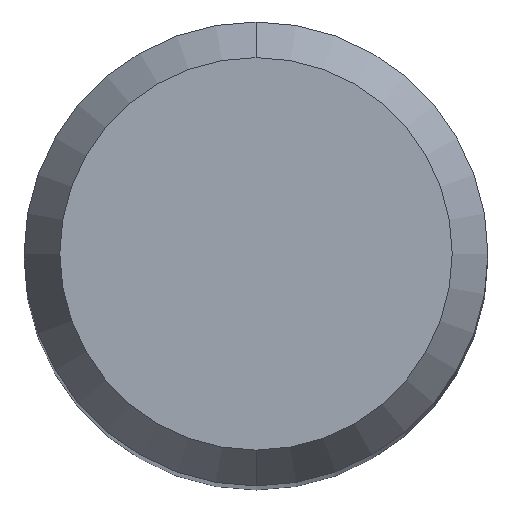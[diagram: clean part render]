
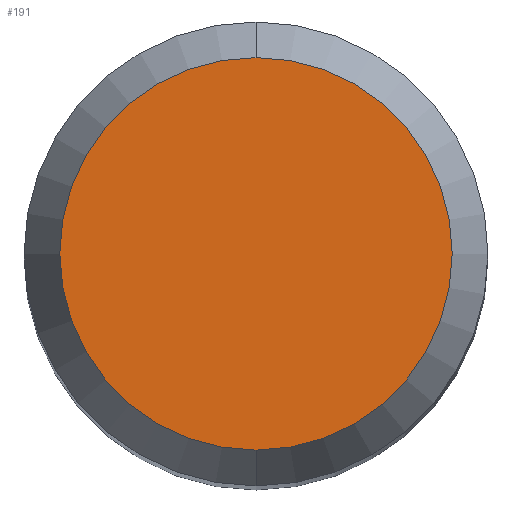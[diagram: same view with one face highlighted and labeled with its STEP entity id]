
A CAD part, top view. The second image highlights one B-rep face of the part: STEP entity #191.
In plain terms, the highlighted planar face has unit normal (0, 0, 1).
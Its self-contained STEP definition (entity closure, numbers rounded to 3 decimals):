
#163=VERTEX_POINT('',#416);
#185=EDGE_CURVE('',#371,#163,#440,.T.);
#191=ADVANCED_FACE('',(#446),#447,.T.);
#355=EDGE_CURVE('',#163,#371,#625,.T.);
#371=VERTEX_POINT('',#643);
#416=CARTESIAN_POINT('',(0.0,2.538,0.0));
#440=CIRCLE('',#742,2.538);
#446=FACE_OUTER_BOUND('',#751,.T.);
#447=PLANE('',#752);
#625=CIRCLE('',#1177,2.538);
#643=CARTESIAN_POINT('',(0.,-2.538,0.0));
#742=AXIS2_PLACEMENT_3D('',#1266,#1267,#1268);
#751=EDGE_LOOP('',(#1274,#1275));
#752=AXIS2_PLACEMENT_3D('',#1276,#1277,#1278);
#1177=AXIS2_PLACEMENT_3D('',#1455,#1456,#1457);
#1266=CARTESIAN_POINT('',(0.0,0.0,0.0));
#1267=DIRECTION('',(0.0,0.0,-1.0));
#1268=DIRECTION('',(0.0,1.0,0.0));
#1274=ORIENTED_EDGE('',*,*,#355,.F.);
#1275=ORIENTED_EDGE('',*,*,#185,.F.);
#1276=CARTESIAN_POINT('',(0.0,1.269,0.0));
#1277=DIRECTION('',(-0.0,0.0,1.0));
#1278=DIRECTION('',(0.0,-1.0,0.0));
#1455=CARTESIAN_POINT('',(0.0,0.0,0.0));
#1456=DIRECTION('',(0.0,0.0,-1.0));
#1457=DIRECTION('',(0.0,1.0,0.0));
